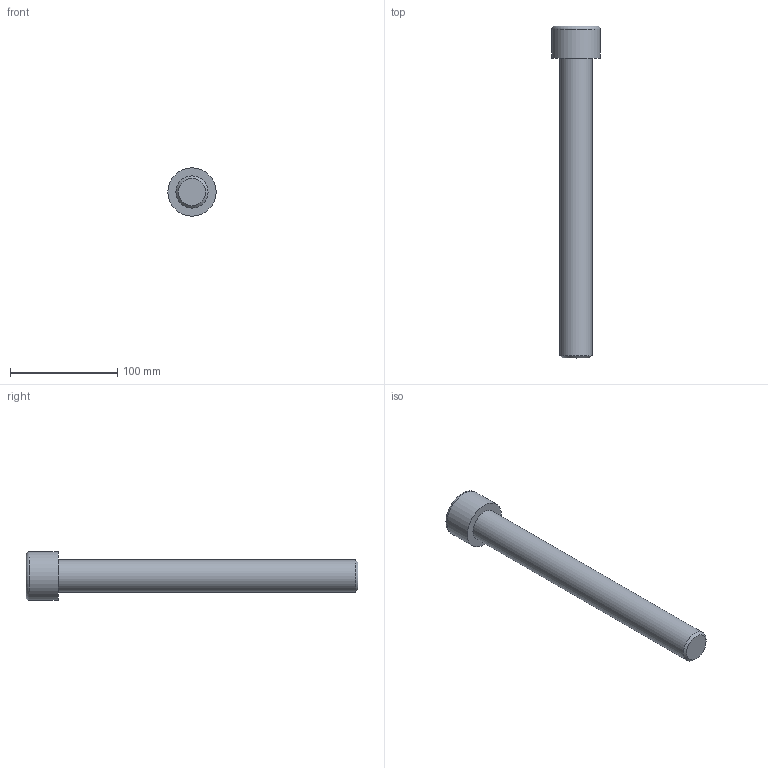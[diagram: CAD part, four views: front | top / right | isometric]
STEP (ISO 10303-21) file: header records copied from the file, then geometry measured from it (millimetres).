
FILE_DESCRIPTION(/* description */ (''),/* implementation_level */ '2;1');
FILE_NAME(/* name */ 'C:\Users\D\Documents\Inventor\各種小物\JIS\JIS B 1176 六角穴付きボルト\M30x280.stp',/* time_stamp */ '2022-05-09T19:01:38+09:00',/* author */ ('D'),/* organization */ (''),/* preprocessor_version */ 'ST-DEVELOPER v18',/* originating_system */ 'Autodesk Inventor 2020',/* authorisation */ '');
FILE_SCHEMA (('AUTOMOTIVE_DESIGN { 1 0 10303 214 3 1 1 }'));
Length unit declared in the file: millimetre
Products named in the file (1): M1.6x2.5
Bounding box: 45 x 310 x 45 mm (x, y, z)
Volume: 237459 mm3; surface area: 34795.9 mm2
Topology: 1 solids, 1 shells, 14 faces, 33 edges, 22 vertices
Faces by surface type: plane 9, cone 2, cylinder 2, torus 1
Full cylindrical faces by diameter (mm): 30 x1, 45 x1
Entity records: 435 total; most frequent: CARTESIAN_POINT 83, ORIENTED_EDGE 64, DIRECTION 64, EDGE_CURVE 32, AXIS2_PLACEMENT_3D 24, VERTEX_POINT 22, EDGE_LOOP 16, LINE 16
